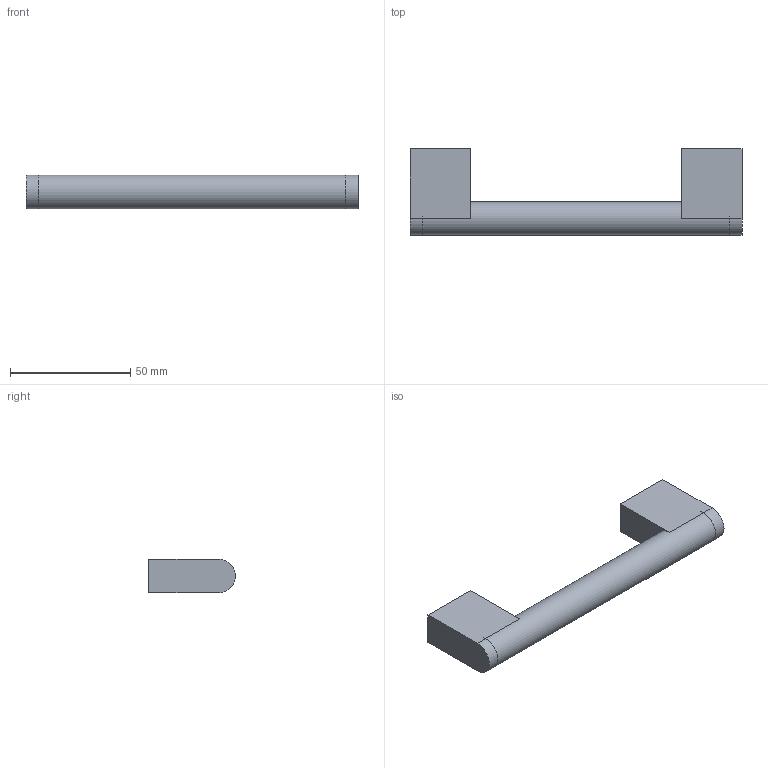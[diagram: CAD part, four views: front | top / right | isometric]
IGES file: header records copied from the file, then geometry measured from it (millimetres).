
Start section: Data from Parasolid IGES Translator 15.0.47, Copyright(c) 2006 Siemens P LM Software. All Rights Reserved.
Global section: file name: 9118858.igs; native system:  By UGS Corp.; preprocessor: XPlus GENERIC/IGES 3.0; author: Noname; organization: Noname; date: 20140122.172625; units: millimetre
Bounding box: 138 x 36 x 14 mm (x, y, z)
Surface area: 12147.2 mm2 (no closed solid volume)
Topology: 0 solids, 0 shells, 21 faces, 82 edges, 78 vertices
Faces by surface type: extrusion 14, revolution 7
